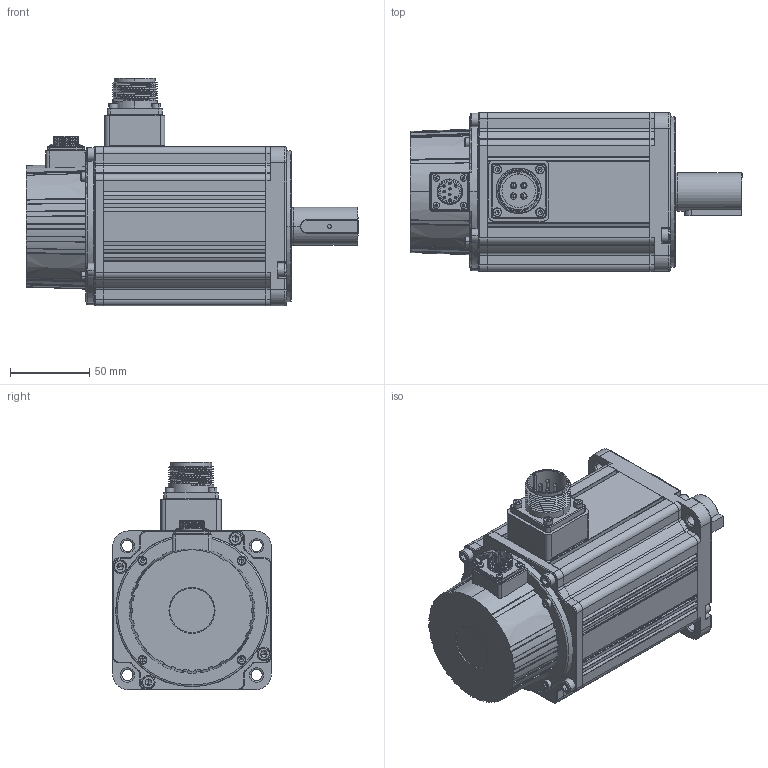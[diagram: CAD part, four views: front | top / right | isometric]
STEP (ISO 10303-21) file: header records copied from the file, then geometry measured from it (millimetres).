
FILE_DESCRIPTION (( 'STEP AP214' ), '1' );
FILE_NAME ('V9E-L10A-1R530-¿Ú1.STEP', '2023-10-09T09:28:54', ( 'IT' ), ( '' ), 'SwSTEP 2.0', 'SolidWorks 2014', '' );
FILE_SCHEMA (( 'AUTOMOTIVE_DESIGN' ));
Length unit declared in the file: millimetre
Products named in the file (24): 拸价陬隅赽-60ㄗ陔ㄘ; SC瑤諾脣芛 CMS3102A18-10P-Z-1; 晤鎢ん TS5700N8401 23bit橈勤硉1; GB-T 1096 键 C 8x7x36 带M3起键螺钉孔; V9E-L10A-1R530-諳1; E13B106AA1; 内六角圆柱头螺钉、弹簧垫圈及平垫圈组合件 M3x8; O型圈 74x2; 埴芛囀鞠褒 ISO 4762 M3 x 12; 埴芛囀鞠褒 ISO 4762 M5 x 18; V10L102Q001; V10L101F002; ﾊｮﾗﾖｲﾛﾐ｡ﾅﾌﾍｷﾂﾝｶ､ M3x8; V10L102H001; V10L106O001; 编码器簧片支架  TS  安装直径40_1; 波垫垫圈 JB-7590 D52; 无刹车转子组件-60（新）; 蚐猾 D00B999YF9-TC 25-32-4-110#; 16M-9P; V10L103Z006; 埴芛囀鞠褒 ISO 4762 M3 x 29; E13B106AE1; V10E106B001_9о
Assembly tree (41 placements, depth 3):
  V9E-L10A-1R530-諳1
    拸价陬隅赽-60ㄗ陔ㄘ
      V10L102Q001
      V10L101F002
      E13B106AA1
      SC瑤諾脣芛 CMS3102A18-10P-Z-1
      埴芛囀鞠褒 ISO 4762 M3 x 29  x4
      埴芛囀鞠褒 ISO 4762 M5 x 18  x4
      E13B106AE1
      V10L106O001
    无刹车转子组件-60（新）
      V10L102H001
      V10L103Z006
      V10L106O001
    V10E106B001_9о
    16M-9P
    蚐猾 D00B999YF9-TC 25-32-4-110#
    晤鎢ん TS5700N8401 23bit橈勤硉1
      编码器簧片支架  TS  安装直径40_1
    波垫垫圈 JB-7590 D52
    O型圈 74x2
    GB-T 1096 键 C 8x7x36 带M3起键螺钉孔
    ﾊｮﾗﾖｲﾛﾐ｡ﾅﾌﾍｷﾂﾝｶ､ M3x8  x4
    埴芛囀鞠褒 ISO 4762 M3 x 12  x4
    埴芛囀鞠褒 ISO 4762 M5 x 18  x4
    内六角圆柱头螺钉、弹簧垫圈及平垫圈组合件 M3x8  x2
Bounding box: 209 x 100 x 143.3 mm (x, y, z)
Volume: 513816.7 mm3; surface area: 240682.7 mm2
Topology: 39 solids, 39 shells, 2514 faces, 6058 edges, 3637 vertices
Faces by surface type: cylinder 972, plane 768, torus 331, cone 202, bspline 143, sphere 98
Entity records: 73098 total; most frequent: CARTESIAN_POINT 19329, DIRECTION 11083, ORIENTED_EDGE 9900, EDGE_CURVE 4950, AXIS2_PLACEMENT_3D 4534, VERTEX_POINT 3017, CIRCLE 2511, EDGE_LOOP 2293
